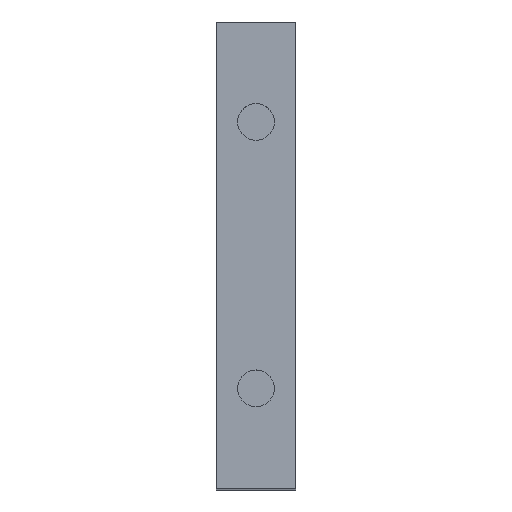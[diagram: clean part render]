
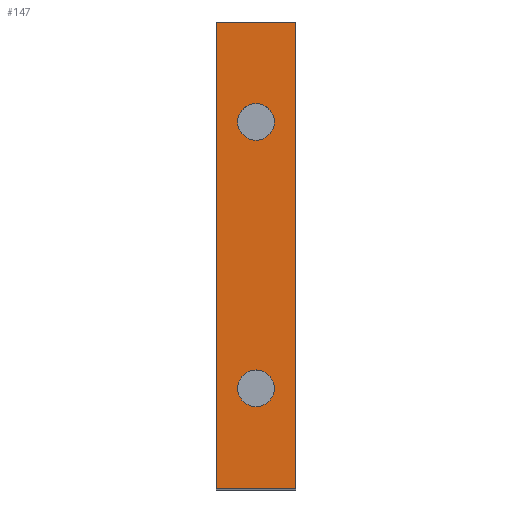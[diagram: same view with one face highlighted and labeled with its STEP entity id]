
A CAD part, top view. The second image highlights one B-rep face of the part: STEP entity #147.
In plain terms, the highlighted planar face has unit normal (0, 0, 1).
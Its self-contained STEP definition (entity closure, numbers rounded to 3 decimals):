
#147=ADVANCED_FACE('',(#560,#562,#564),#566,.T.);
#560=FACE_BOUND('',#561,.T.);
#561=EDGE_LOOP('',(#920,#921,#922,#923));
#562=FACE_BOUND('',#563,.T.);
#563=EDGE_LOOP('',(#924));
#564=FACE_BOUND('',#565,.T.);
#565=EDGE_LOOP('',(#925));
#566=PLANE('',#567);
#567=AXIS2_PLACEMENT_3D('',#568,#569,#570);
#568=CARTESIAN_POINT('',(0.,35.,95.));
#569=DIRECTION('',(0.,0.,1.));
#570=DIRECTION('',(0.,-1.,0.));
#920=ORIENTED_EDGE('',*,*,#1041,.T.);
#921=ORIENTED_EDGE('',*,*,#1099,.T.);
#922=ORIENTED_EDGE('',*,*,#1070,.F.);
#923=ORIENTED_EDGE('',*,*,#1100,.F.);
#924=ORIENTED_EDGE('',*,*,#1101,.T.);
#925=ORIENTED_EDGE('',*,*,#1102,.T.);
#1041=EDGE_CURVE('',#1152,#1150,#1153,.T.);
#1070=EDGE_CURVE('',#1206,#1208,#1209,.T.);
#1099=EDGE_CURVE('',#1150,#1208,#1262,.T.);
#1100=EDGE_CURVE('',#1152,#1206,#1263,.T.);
#1101=EDGE_CURVE('',#1264,#1264,#1265,.F.);
#1102=EDGE_CURVE('',#1266,#1266,#1267,.F.);
#1150=VERTEX_POINT('',#1348);
#1152=VERTEX_POINT('',#1352);
#1153=LINE('',#1353,#1354);
#1206=VERTEX_POINT('',#1475);
#1208=VERTEX_POINT('',#1479);
#1209=LINE('',#1480,#1481);
#1262=LINE('',#1605,#1606);
#1263=LINE('',#1608,#1609);
#1264=VERTEX_POINT('',#1611);
#1265=CIRCLE('',#1612,2.75);
#1266=VERTEX_POINT('',#1616);
#1267=CIRCLE('',#1617,2.75);
#1348=CARTESIAN_POINT('',(0.,-35.,95.));
#1352=CARTESIAN_POINT('',(0.,35.,95.));
#1353=CARTESIAN_POINT('',(0.,35.,95.));
#1354=VECTOR('',#1355,1.);
#1355=DIRECTION('',(0.,-1.,0.));
#1475=CARTESIAN_POINT('',(12.,35.,95.));
#1479=CARTESIAN_POINT('',(12.,-35.,95.));
#1480=CARTESIAN_POINT('',(12.,35.,95.));
#1481=VECTOR('',#1482,1.);
#1482=DIRECTION('',(0.,-1.,0.));
#1605=CARTESIAN_POINT('',(0.,-35.,95.));
#1606=VECTOR('',#1607,1.);
#1607=DIRECTION('',(1.,0.,0.));
#1608=CARTESIAN_POINT('',(0.,35.,95.));
#1609=VECTOR('',#1610,1.);
#1610=DIRECTION('',(1.,0.,0.));
#1611=CARTESIAN_POINT('',(6.,-17.25,95.));
#1612=AXIS2_PLACEMENT_3D('',#1613,#1614,#1615);
#1613=CARTESIAN_POINT('',(6.,-20.,95.));
#1614=DIRECTION('',(0.,0.,1.));
#1615=DIRECTION('',(0.,1.,0.));
#1616=CARTESIAN_POINT('',(6.,22.75,95.));
#1617=AXIS2_PLACEMENT_3D('',#1618,#1619,#1620);
#1618=CARTESIAN_POINT('',(6.,20.,95.));
#1619=DIRECTION('',(0.,0.,1.));
#1620=DIRECTION('',(0.,1.,0.));
